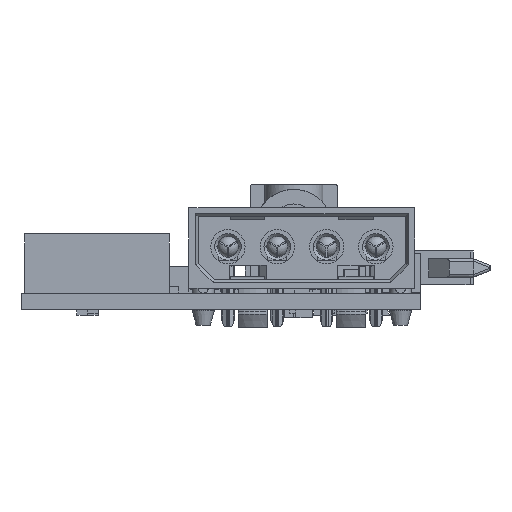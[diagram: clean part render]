
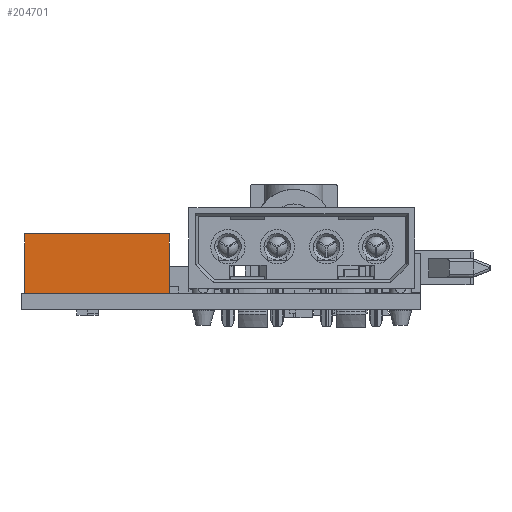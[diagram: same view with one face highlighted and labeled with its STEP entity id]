
A CAD part, left-side view. The second image highlights one B-rep face of the part: STEP entity #204701.
In plain terms, the highlighted planar face has unit normal (-1, 0, 0).
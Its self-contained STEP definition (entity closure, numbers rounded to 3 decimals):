
#204134 = EDGE_CURVE('',#204135,#204137,#204139,.T.);
#204135 = VERTEX_POINT('',#204136);
#204136 = CARTESIAN_POINT('',(-5.75,7.45,0.));
#204137 = VERTEX_POINT('',#204138);
#204138 = CARTESIAN_POINT('',(-5.75,7.45,6.1));
#204139 = SURFACE_CURVE('',#204140,(#204144,#204156),.PCURVE_S1.);
#204140 = LINE('',#204141,#204142);
#204141 = CARTESIAN_POINT('',(-5.75,7.45,0.));
#204142 = VECTOR('',#204143,1.);
#204143 = DIRECTION('',(0.,0.,1.));
#204144 = PCURVE('',#204145,#204150);
#204145 = PLANE('',#204146);
#204146 = AXIS2_PLACEMENT_3D('',#204147,#204148,#204149);
#204147 = CARTESIAN_POINT('',(-5.75,7.45,0.));
#204148 = DIRECTION('',(0.,1.,0.));
#204149 = DIRECTION('',(1.,0.,0.));
#204150 = DEFINITIONAL_REPRESENTATION('',(#204151),#204155);
#204151 = LINE('',#204152,#204153);
#204152 = CARTESIAN_POINT('',(0.,0.));
#204153 = VECTOR('',#204154,1.);
#204154 = DIRECTION('',(0.,-1.));
#204155 = ( GEOMETRIC_REPRESENTATION_CONTEXT(2) 
PARAMETRIC_REPRESENTATION_CONTEXT() REPRESENTATION_CONTEXT('2D SPACE',''
  ) );
#204156 = PCURVE('',#204157,#204162);
#204157 = PLANE('',#204158);
#204158 = AXIS2_PLACEMENT_3D('',#204159,#204160,#204161);
#204159 = CARTESIAN_POINT('',(-5.75,-7.45,0.));
#204160 = DIRECTION('',(-1.,0.,0.));
#204161 = DIRECTION('',(0.,1.,0.));
#204162 = DEFINITIONAL_REPRESENTATION('',(#204163),#204167);
#204163 = LINE('',#204164,#204165);
#204164 = CARTESIAN_POINT('',(14.9,0.));
#204165 = VECTOR('',#204166,1.);
#204166 = DIRECTION('',(0.,-1.));
#204167 = ( GEOMETRIC_REPRESENTATION_CONTEXT(2) 
PARAMETRIC_REPRESENTATION_CONTEXT() REPRESENTATION_CONTEXT('2D SPACE',''
  ) );
#204185 = PLANE('',#204186);
#204186 = AXIS2_PLACEMENT_3D('',#204187,#204188,#204189);
#204187 = CARTESIAN_POINT('',(-5.75,7.45,6.1));
#204188 = DIRECTION('',(0.,0.,1.));
#204189 = DIRECTION('',(1.,0.,0.));
#204239 = PLANE('',#204240);
#204240 = AXIS2_PLACEMENT_3D('',#204241,#204242,#204243);
#204241 = CARTESIAN_POINT('',(-5.75,7.45,0.));
#204242 = DIRECTION('',(0.,0.,1.));
#204243 = DIRECTION('',(1.,0.,0.));
#204598 = PLANE('',#204599);
#204599 = AXIS2_PLACEMENT_3D('',#204600,#204601,#204602);
#204600 = CARTESIAN_POINT('',(5.75,-7.45,0.));
#204601 = DIRECTION('',(0.,-1.,0.));
#204602 = DIRECTION('',(-1.,0.,0.));
#204636 = VERTEX_POINT('',#204637);
#204637 = CARTESIAN_POINT('',(-5.75,-7.45,6.1));
#204658 = EDGE_CURVE('',#204659,#204636,#204661,.T.);
#204659 = VERTEX_POINT('',#204660);
#204660 = CARTESIAN_POINT('',(-5.75,-7.45,0.));
#204661 = SURFACE_CURVE('',#204662,(#204666,#204673),.PCURVE_S1.);
#204662 = LINE('',#204663,#204664);
#204663 = CARTESIAN_POINT('',(-5.75,-7.45,0.));
#204664 = VECTOR('',#204665,1.);
#204665 = DIRECTION('',(0.,0.,1.));
#204666 = PCURVE('',#204598,#204667);
#204667 = DEFINITIONAL_REPRESENTATION('',(#204668),#204672);
#204668 = LINE('',#204669,#204670);
#204669 = CARTESIAN_POINT('',(11.5,0.));
#204670 = VECTOR('',#204671,1.);
#204671 = DIRECTION('',(0.,-1.));
#204672 = ( GEOMETRIC_REPRESENTATION_CONTEXT(2) 
PARAMETRIC_REPRESENTATION_CONTEXT() REPRESENTATION_CONTEXT('2D SPACE',''
  ) );
#204673 = PCURVE('',#204157,#204674);
#204674 = DEFINITIONAL_REPRESENTATION('',(#204675),#204679);
#204675 = LINE('',#204676,#204677);
#204676 = CARTESIAN_POINT('',(0.,0.));
#204677 = VECTOR('',#204678,1.);
#204678 = DIRECTION('',(0.,-1.));
#204679 = ( GEOMETRIC_REPRESENTATION_CONTEXT(2) 
PARAMETRIC_REPRESENTATION_CONTEXT() REPRESENTATION_CONTEXT('2D SPACE',''
  ) );
#204701 = ADVANCED_FACE('',(#204702),#204157,.T.);
#204702 = FACE_BOUND('',#204703,.T.);
#204703 = EDGE_LOOP('',(#204704,#204705,#204726,#204727));
#204704 = ORIENTED_EDGE('',*,*,#204658,.T.);
#204705 = ORIENTED_EDGE('',*,*,#204706,.T.);
#204706 = EDGE_CURVE('',#204636,#204137,#204707,.T.);
#204707 = SURFACE_CURVE('',#204708,(#204712,#204719),.PCURVE_S1.);
#204708 = LINE('',#204709,#204710);
#204709 = CARTESIAN_POINT('',(-5.75,-7.45,6.1));
#204710 = VECTOR('',#204711,1.);
#204711 = DIRECTION('',(0.,1.,0.));
#204712 = PCURVE('',#204157,#204713);
#204713 = DEFINITIONAL_REPRESENTATION('',(#204714),#204718);
#204714 = LINE('',#204715,#204716);
#204715 = CARTESIAN_POINT('',(0.,-6.1));
#204716 = VECTOR('',#204717,1.);
#204717 = DIRECTION('',(1.,0.));
#204718 = ( GEOMETRIC_REPRESENTATION_CONTEXT(2) 
PARAMETRIC_REPRESENTATION_CONTEXT() REPRESENTATION_CONTEXT('2D SPACE',''
  ) );
#204719 = PCURVE('',#204185,#204720);
#204720 = DEFINITIONAL_REPRESENTATION('',(#204721),#204725);
#204721 = LINE('',#204722,#204723);
#204722 = CARTESIAN_POINT('',(0.,-14.9));
#204723 = VECTOR('',#204724,1.);
#204724 = DIRECTION('',(0.,1.));
#204725 = ( GEOMETRIC_REPRESENTATION_CONTEXT(2) 
PARAMETRIC_REPRESENTATION_CONTEXT() REPRESENTATION_CONTEXT('2D SPACE',''
  ) );
#204726 = ORIENTED_EDGE('',*,*,#204134,.F.);
#204727 = ORIENTED_EDGE('',*,*,#204728,.F.);
#204728 = EDGE_CURVE('',#204659,#204135,#204729,.T.);
#204729 = SURFACE_CURVE('',#204730,(#204734,#204741),.PCURVE_S1.);
#204730 = LINE('',#204731,#204732);
#204731 = CARTESIAN_POINT('',(-5.75,-7.45,0.));
#204732 = VECTOR('',#204733,1.);
#204733 = DIRECTION('',(0.,1.,0.));
#204734 = PCURVE('',#204157,#204735);
#204735 = DEFINITIONAL_REPRESENTATION('',(#204736),#204740);
#204736 = LINE('',#204737,#204738);
#204737 = CARTESIAN_POINT('',(0.,0.));
#204738 = VECTOR('',#204739,1.);
#204739 = DIRECTION('',(1.,0.));
#204740 = ( GEOMETRIC_REPRESENTATION_CONTEXT(2) 
PARAMETRIC_REPRESENTATION_CONTEXT() REPRESENTATION_CONTEXT('2D SPACE',''
  ) );
#204741 = PCURVE('',#204239,#204742);
#204742 = DEFINITIONAL_REPRESENTATION('',(#204743),#204747);
#204743 = LINE('',#204744,#204745);
#204744 = CARTESIAN_POINT('',(0.,-14.9));
#204745 = VECTOR('',#204746,1.);
#204746 = DIRECTION('',(0.,1.));
#204747 = ( GEOMETRIC_REPRESENTATION_CONTEXT(2) 
PARAMETRIC_REPRESENTATION_CONTEXT() REPRESENTATION_CONTEXT('2D SPACE',''
  ) );
